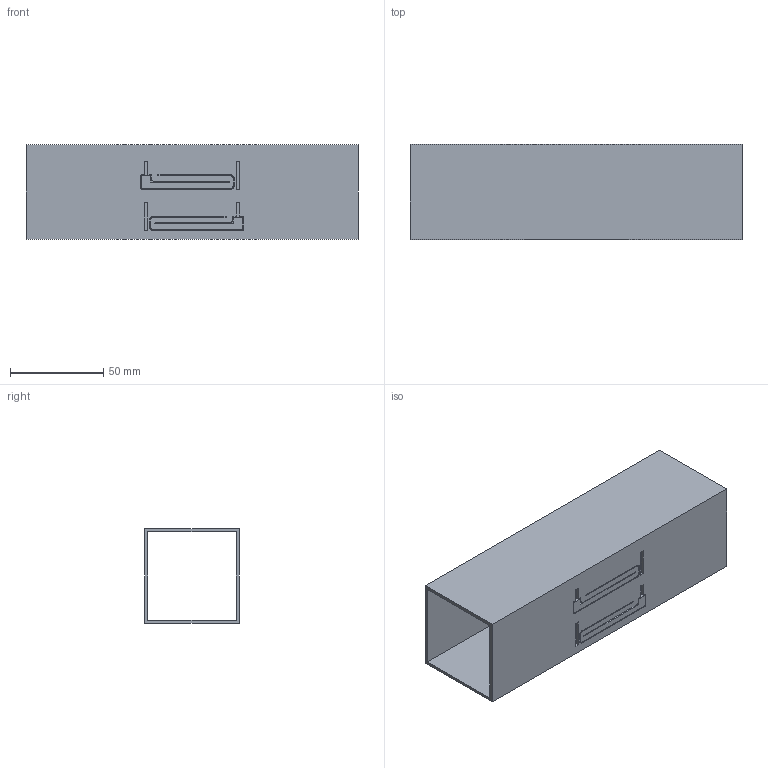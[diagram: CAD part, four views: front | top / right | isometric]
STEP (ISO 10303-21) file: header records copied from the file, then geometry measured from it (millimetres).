
FILE_DESCRIPTION(/* description */ ('STEP AP242 Edition 2','CAx-IF Rec.Pracs.---Representation and Presentation of Product Manufacturing Information (PMI)---4.0---2014-10-13','CAx-IF Rec.Pracs.---3D Tessellated Geometry---0.4---2014-09-14','2;1','CAx-IF Rec.Pracs.---User Defined Attributes---1.5---2016-08-15'),/* implementation_level */ '2;1');
FILE_NAME(/* name */ 'Hidden Toggle Lock Snap Joint 2x2 - Tube 2-x2-x18-',/* time_stamp */ '2026-07-06T21:51:07Z',/* author */ (''),/* organization */ (''),/* preprocessor_version */ 'ST-DEVELOPER v20',/* originating_system */ 'ONSHAPE BY PTC INC, 1.217',/* authorisation */ ' ');
FILE_SCHEMA (('AP242_MANAGED_MODEL_BASED_3D_ENGINEERING_MIM_LF { 1 0 10303 442 3 1 4 }'));
Length unit declared in the file: metre
Products named in the file (1): Tube 2"x2"x18"
Bounding box: 177.8 x 50.8 x 50.8 mm (x, y, z)
Volume: 57306.7 mm3; surface area: 71245.7 mm2
Topology: 1 solids, 1 shells, 81 faces, 237 edges, 158 vertices
Faces by surface type: plane 54, cylinder 27
Entity records: 2727 total; most frequent: CARTESIAN_POINT 477, ORIENTED_EDGE 474, DIRECTION 455, EDGE_CURVE 237, LINE 183, VECTOR 183, VERTEX_POINT 158, AXIS2_PLACEMENT_3D 136
